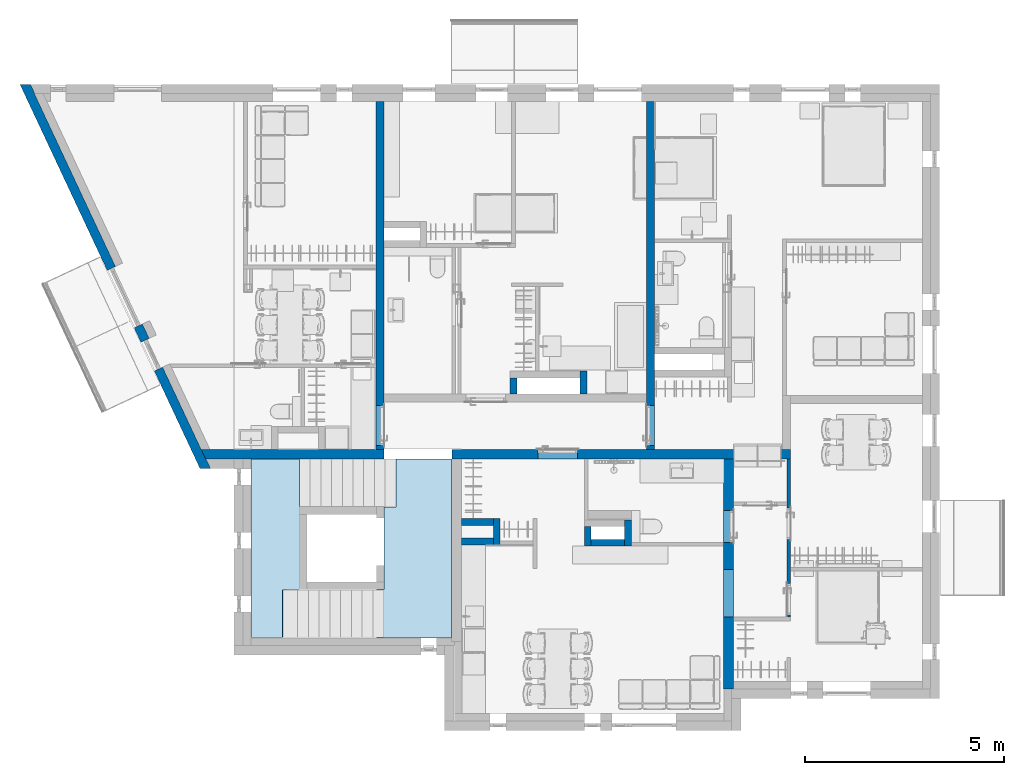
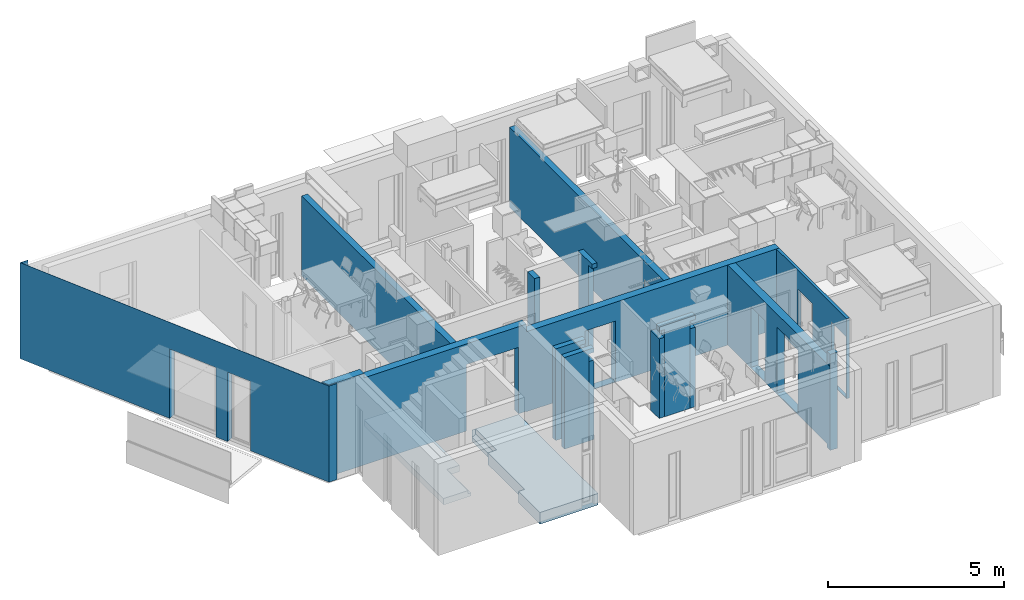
# One storey, part 10 of 68: 14 walls, 2 slabs, 1 element without a shape of its own.
"""IFC2X3 building model written with IfcOpenShell, lengths in millimetres."""

from ifc_helpers import new_model, entity, si_unit, converted_unit, direction, frame, origin, place, context, subcontext, project, spatial, faceted_brep, material, material_list, layer, layer_set, type_object, element, aggregate, save


model = new_model("IFC2X3")

# Units and contexts
model_context = context("Model", 3, precision=0.01, world=origin(), true_north=direction((6.123233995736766e-17, 1.0)))
plan_context = context("Plan", 3, precision=0.01, world=origin(), true_north=direction((6.123233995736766e-17, 1.0)))
body_context = subcontext(model_context, "Body", "Model", "MODEL_VIEW")
ifc_project = project(units=[si_unit("LENGTHUNIT", "METRE", prefix="MILLI"), converted_unit("PLANEANGLEUNIT", "DEGREE", entity("IfcPlaneAngleMeasure", 0.017453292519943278), si_unit("PLANEANGLEUNIT", "RADIAN"), dimensions=[0, 0, 0, 0, 0, 0, 0]), si_unit("AREAUNIT", "SQUARE_METRE")], contexts=[model_context, plan_context])

# Site, building, storey
site_placement = place(None, origin())
site = spatial("IfcSite", under=ifc_project, at=site_placement, Name="Default", CompositionType="ELEMENT")
building_placement = place(site_placement, origin())
building = spatial("IfcBuilding", under=site, at=building_placement, CompositionType="ELEMENT")
storey_placement = place(building_placement, frame((0.0, 0.0, 6295.0)))
storey = spatial("IfcBuildingStorey", under=building, at=storey_placement, Name="3K", CompositionType="ELEMENT", Elevation=6294.999999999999)

# Stair, slab
type_product = type_object("IfcTypeProduct", Name="Precast Stair:Default. Monteeritav raudbetoontrepp")
stair_placement = place(storey_placement, origin())
stair = element("IfcStair", 1, at=stair_placement, inside=storey, type_object=type_product, Name="Precast Stair:Stair", ObjectType="Precast Stair:Default. Monteeritav raudbetoontrepp", ShapeType="HALF_TURN_STAIR")
ifc_material_1 = material(Name="Temp. Betoon. Armeeritud. Kohtvalu")
slab_type_1 = type_object("IfcSlabType", Name="Monolithic Landing:Default Landing. Raudbetoon", PredefinedType="LANDING")
slab_1_placement = place(stair_placement, frame((0.0, 1905.0014695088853, 0.0)))
slab_1 = element("IfcSlab", 2, at=slab_1_placement, type_object=slab_type_1, material=ifc_material_1, Name="Precast Stair:Stair:508940 Landing 1", ObjectType="Monolithic Landing:Default Landing. Raudbetoon", PredefinedType="LANDING", context=body_context, shape_type="Brep", body=[
    faceted_brep([(902.4937255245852, 1204.9923864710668, 1565.000038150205), (1213.7438214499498, 1204.9923864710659, 1565.000038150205), (1213.7438214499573, 3292.4954377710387, 1565.000038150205), (1213.7438214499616, 4492.495437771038, 1565.000038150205), (0.0, 4492.495437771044, 1565.000038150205), (0.0, 0.0, 1565.000038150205), (792.4937255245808, 0.0, 1565.000038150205), (792.4937255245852, 1201.5875000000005, 1565.000038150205), (902.4937255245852, 1201.5875, 1565.000038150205), (902.4937255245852, 1204.9923864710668, 1345.000038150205), (902.4937255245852, 1201.5875, 1345.000038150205), (1213.7438214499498, 1204.9923864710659, 1345.000038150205), (1213.7438214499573, 3292.4954377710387, 1345.000038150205), (1213.7438214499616, 4492.495437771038, 1345.000038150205), (0.0, 4492.495437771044, 1345.000038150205), (0.0, 0.0, 1345.000038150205), (892.4937255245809, 0.0, 1345.000038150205), (892.4937255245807, 0.0, 1455.000038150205), (792.4937255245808, 0.0, 1455.000038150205), (892.4937255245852, 1201.5875, 1345.000038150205), (892.4937255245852, 1201.5875, 1455.000038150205), (792.4937255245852, 1201.5875000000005, 1455.000038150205)], [[[0, 1, 2, 3, 4, 5, 6, 7, 8]], [[9, 0, 8, 10]], [[1, 0, 9, 11]], [[2, 1, 11, 12]], [[4, 3, 13, 14]], [[5, 4, 14, 15]], [[5, 15, 16, 17, 18, 6]], [[11, 9, 10, 19, 16, 15, 14, 13, 12]], [[20, 21, 18, 17]], [[7, 21, 20, 19, 10, 8]], [[21, 7, 6, 18]], [[20, 17, 16, 19]], [[3, 2, 12, 13]]]),
])
aggregate(stair, [slab_1])

# Slab
ifc_material_2 = material(Name="_K. Betoon. Armeeritud. Kohtvalu")
ifc_material_3 = material(Name="_K. Soojustus. Mineraalvill")
ifc_material_4 = material(Name="_K. Soojustus. EPS")
ifc_material_5 = material(Name="_K. Betoon. Armeeritud. Monteeritav")
ifc_material_list = material_list([ifc_material_2, ifc_material_3, ifc_material_4, ifc_material_5])
slab_type_2 = type_object("IfcSlabType", Name="Floor:VL-03", PredefinedType="FLOOR")
slab_2_placement = place(storey_placement, origin())
element("IfcSlab", 3, at=slab_2_placement, inside=storey, type_object=slab_type_2, material=ifc_material_list, Name="Floor:VL-03", ObjectType="Floor:VL-03", PredefinedType="FLOOR", context=body_context, shape_type="Brep", body=[
    faceted_brep([(5049.995060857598, 6404.999959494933, -420.0), (5049.995060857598, 1900.0, -420.0), (3154.993534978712, 1900.0, -420.0), (3154.9935349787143, 3109.993882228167, -420.0), (3349.9935349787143, 3109.9938822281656, -420.0), (3349.9935349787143, 5189.998421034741, -420.0), (3529.993534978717, 5189.998421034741, -420.0), (3529.993534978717, 6404.999959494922, -420.0), (5049.995060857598, 1900.0, -20.0), (5049.995060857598, 6404.999959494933, -20.0), (3529.993534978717, 6404.999959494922, -20.0), (3529.993534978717, 6397.496907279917, -20.0), (3643.7438214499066, 6397.496907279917, -20.0), (3643.743821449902, 5197.496907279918, -20.0), (3529.993534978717, 5197.496907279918, -20.0), (3529.993534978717, 5189.998421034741, -20.0), (3349.9935349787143, 5189.998421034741, -20.0), (3349.9935349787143, 3109.9938822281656, -20.0), (3154.9935349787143, 3109.993882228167, -20.0), (3154.993534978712, 1900.0, -20.0), (3529.993534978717, 5197.496907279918, -273.2833054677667), (3529.993534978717, 6397.496907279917, -273.2833054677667), (3643.743821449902, 5197.496907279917, -199.0881597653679), (3643.7438214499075, 6397.496907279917, -199.08815976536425)], [[[0, 1, 2, 3, 4, 5, 6, 7]], [[8, 9, 10, 11, 12, 13, 14, 15, 16, 17, 18, 19]], [[1, 0, 9, 8]], [[2, 1, 8, 19]], [[5, 4, 17, 16]], [[0, 7, 10, 9]], [[3, 2, 19, 18]], [[4, 3, 18, 17]], [[6, 5, 16, 15]], [[7, 6, 15, 14, 20, 21, 11, 10]], [[22, 23, 21, 20]], [[23, 12, 11, 21]], [[13, 22, 20, 14]], [[23, 22, 13, 12]]]),
])

# Walls
ifc_material_6 = material(Name="_K. Müüritis. Väikeplokk. Betoon-õõnesplokk")
ifc_layer_1 = layer(ifc_material_6, 240.0)
ifc_layer_set_1 = layer_set([ifc_layer_1], Name="Basic Wall:Columbia 240mm")
wall_type_1 = type_object("IfcWallType", Name="Basic Wall:Columbia 240mm", PredefinedType="STANDARD", material=ifc_layer_set_1)
wall_1_placement = place(storey_placement, frame((13580.0, 6524.999959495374, -20.0), z_axis=(0.0, 0.0, 1.0), x_axis=(-1.0, 0.0, 0.0)))
element("IfcWall", 4, at=wall_1_placement, inside=storey, type_object=wall_type_1, Name="Basic Wall:Columbia 240mm", ObjectType="Basic Wall:Columbia 240mm", context=body_context, shape_type="Brep", body=[
    faceted_brep([(5360.0, -120.0, 20.0), (5360.0, -120.0, 2120.0), (6360.0, -120.0, 2120.0), (6360.0, -120.0, 20.0), (8275.00213623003, -120.0, 2770.00007630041), (3630.0, -120.0, 2770.00007630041), (3430.0, -120.0, 2770.00007630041), (200.0, -120.0, 2770.00007630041), (0.0, -120.0, 2770.00007630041), (0.0, -120.0, 20.0), (0.0, -120.0, 0.0), (8280.004939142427, -120.0, 0.0), (8280.004939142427, -120.0, 20.0), (8525.002802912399, -120.0, 20.0), (8525.002802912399, -120.0, 2320.000076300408), (10235.006465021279, -120.0, 2320.000076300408), (10235.006465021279, -120.0, 20.0), (11720.0, -120.0, 20.0), (11890.0, -120.0, 20.0), (12900.0, -120.0, 20.0), (13070.0, -120.0, 20.0), (14618.163728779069, -120.0, 20.0), (14839.04619184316, -120.0, 20.0), (14839.046191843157, -120.0, 2769.999801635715), (14839.046191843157, -120.0, 3190.0), (14010.0, -120.0, 3190.0), (13770.0, -120.0, 3190.0), (13580.0, -120.0, 3190.0), (13580.0, -120.0, 3035.00007630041), (8275.00213623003, -120.0, 3035.00007630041), (0.0, 120.0, 2770.00007630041), (92.0, 120.0, 2770.00007630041), (1435.0064650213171, 120.0, 2770.00007630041), (1685.0064650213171, 120.0, 2770.00007630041), (5098.0, 120.0, 2770.00007630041), (5190.0, 120.0, 2770.00007630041), (8275.00213623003, 120.0, 2770.00007630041), (8275.00213623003, 120.0, 3035.00007630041), (13580.0, 120.0, 3035.00007630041), (13580.0, 120.0, 3190.0), (13770.0, 120.0, 3190.0), (13780.0, 120.0, 3190.0), (14010.0, 120.0, 3190.0), (14726.54619191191, 120.0, 3190.0), (14726.54619191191, 120.0, 2769.999801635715), (14726.546191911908, 120.0, 20.0), (14715.502068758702, 120.0, 20.0), (14010.0, 120.0, 20.0), (13780.0, 120.0, 20.0), (13770.0, 120.0, 20.0), (13580.0, 120.0, 20.0), (10235.006465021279, 120.0, 20.0), (10235.006465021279, 120.0, 2320.000076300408), (8525.002802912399, 120.0, 2320.000076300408), (8525.002802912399, 120.0, 20.0), (8280.004939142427, 120.0, 20.0), (8280.004939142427, 120.0, 0.0), (5190.0, 120.0, 0.0), (5098.0, 120.0, 0.0), (1685.0064650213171, 120.0, 0.0), (1435.0064650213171, 120.0, 0.0), (0.0, 120.0, 0.0), (0.0, 120.0, 20.0), (5360.0, 120.0, 2120.0), (5360.0, 120.0, 20.0), (6360.0, 120.0, 20.0), (6360.0, 120.0, 2120.0)], [[[0, 1, 2, 3], [4, 5, 6, 7, 8, 9, 10, 11, 12, 13, 14, 15, 16, 17, 18, 19, 20, 21, 22, 23, 24, 25, 26, 27, 28, 29]], [[30, 31, 32, 33, 34, 35, 36, 37, 38, 39, 40, 41, 42, 43, 44, 45, 46, 47, 48, 49, 50, 51, 52, 53, 54, 55, 56, 57, 58, 59, 60, 61, 62], [63, 64, 65, 66]], [[43, 24, 23, 22, 45, 44]], [[24, 43, 42, 41, 40, 39, 27, 26, 25]], [[36, 4, 29, 37]], [[8, 7, 6, 5, 4, 36, 35, 34, 33, 32, 31, 30]], [[0, 64, 63, 1]], [[64, 0, 3, 65]], [[65, 3, 2, 66]], [[1, 63, 66, 2]], [[14, 53, 52, 15]], [[53, 14, 13, 54]], [[15, 52, 51, 16]], [[8, 30, 62, 61, 10, 9]], [[11, 10, 61, 60, 59, 58, 57, 56]], [[28, 38, 37, 29]], [[38, 28, 27, 39]], [[22, 21, 20, 19, 18, 17, 16, 51, 50, 49, 48, 47, 46, 45]], [[55, 12, 11, 56]], [[12, 55, 54, 13]]], outer=[[False, True], [True, False], [True], [True], [True], [True], [True], [True], [True], [True], [True], [True], [True], [True], [True], [True], [True], [True], [True], [True]]),
])
ifc_material_7 = material(Name="_K. Väisviimistlus. Krohv. Valge")
ifc_layer_2 = layer(ifc_material_7, 5.0)
ifc_layer_3 = layer(ifc_material_6, 190.00000000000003)
ifc_layer_4 = layer(ifc_material_7, 5.0)
ifc_layer_set_2 = layer_set([ifc_layer_2, ifc_layer_3, ifc_layer_4], Name="Basic Wall:SS-01. 190")
wall_type_2 = type_object("IfcWallType", Name="Basic Wall:SS-01. 190", PredefinedType="STANDARD", material=ifc_layer_set_2)
wall_2_placement = place(storey_placement, frame((3244.9935349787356, 6644.999959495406, -155.0), z_axis=(0.0, 0.0, 1.0), x_axis=(0.0, 1.0, 0.0)))
element("IfcWall", 5, at=wall_2_placement, inside=storey, type_object=wall_type_2, Name="Basic Wall:SS-01. 190", ObjectType="Basic Wall:SS-01. 190", context=body_context, shape_type="Brep", body=[
    faceted_brep([(8755.00004050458, -100.0, 2905.000076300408), (5735.000040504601, -100.0, 2905.000076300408), (5565.000040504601, -100.0, 2905.000076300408), (5255.000040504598, -100.0, 2905.000076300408), (5085.000040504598, -100.0, 2905.000076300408), (1395.0000405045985, -100.0, 2905.000076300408), (1195.0000405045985, -100.0, 2905.000076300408), (0.0, -100.0, 2905.000076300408), (0.0, -100.0, 2455.0000763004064), (0.0, -100.0, 155.0), (0.0, -100.0, 0.0), (5.0, -100.0, 0.0), (5.0, -100.0, 135.0), (1195.0000405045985, -100.0, 135.0), (1395.0000405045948, -100.0, 135.0), (2595.0000405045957, -100.0, 135.0), (5085.000040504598, -100.0, 135.0), (5255.000040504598, -100.0, 135.0), (5565.000040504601, -100.0, 135.0), (5735.000040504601, -100.0, 135.0), (8755.00004050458, -100.0, 135.0), (100.00002025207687, -100.0, 155.0), (100.00002025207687, -100.0, 2255.0), (1100.0000202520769, -100.0, 2255.0), (1100.000020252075, -100.0, 155.0), (100.00002025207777, 100.0, 2255.0), (100.00002025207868, 100.0, 155.0), (1100.0000202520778, 100.0, 155.0), (1100.0000202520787, 100.0, 2255.0), (0.0, 100.0, 2905.000076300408), (2061.0000405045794, 100.0, 2905.000076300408), (2153.0000405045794, 100.0, 2905.000076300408), (4542.000040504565, 100.0, 2905.000076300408), (4634.000040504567, 100.0, 2905.000076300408), (8755.00004050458, 100.0, 2905.000076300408), (8755.000040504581, 100.0, 135.0), (4634.000040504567, 100.0, 135.0), (4542.000040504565, 100.0, 135.0), (2153.0000405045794, 100.0, 135.0), (2061.0000405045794, 100.0, 135.0), (5.0, 100.0, 135.0), (5.0, 100.0, 0.0), (0.0, 100.0, 0.0)], [[[0, 1, 2, 3, 4, 5, 6, 7, 8, 9, 10, 11, 12, 13, 14, 15, 16, 17, 18, 19, 20], [21, 22, 23, 24]], [[25, 26, 27, 28], [29, 30, 31, 32, 33, 34, 35, 36, 37, 38, 39, 40, 41, 42]], [[10, 42, 41, 11]], [[7, 6, 5, 4, 3, 2, 1, 0, 34, 33, 32, 31, 30, 29]], [[10, 9, 8, 7, 29, 42]], [[21, 26, 25, 22]], [[26, 21, 24, 27]], [[27, 24, 23, 28]], [[22, 25, 28, 23]], [[34, 0, 20, 35]], [[12, 40, 39, 38, 37, 36, 35, 20, 19, 18, 17, 16, 15, 14, 13]], [[40, 12, 11, 41]]], outer=[[True, False], [False, True], [True], [True], [True], [True], [True], [True], [True], [True], [True], [True]]),
])
wall_3_placement = place(storey_placement, frame((10050.0, 6644.999959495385, -20.0), z_axis=(0.0, 0.0, 1.0), x_axis=(0.0, 1.0, 0.0)))
element("IfcWall", 6, at=wall_3_placement, inside=storey, type_object=wall_type_2, Name="Basic Wall:SS-01. 190", ObjectType="Basic Wall:SS-01. 190", context=body_context, shape_type="Brep", body=[
    faceted_brep([(1100.0000202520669, -100.0, 2120.0), (1100.0000202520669, -100.0, 20.0), (100.00002025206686, -100.0, 20.0), (100.00002025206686, -100.0, 2120.0), (8755.00004050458, -100.0, 2769.9998779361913), (5295.000040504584, -100.0, 2769.9998779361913), (5203.000040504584, -100.0, 2769.9998779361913), (1995.0000405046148, -100.0, 2769.9998779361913), (1825.000040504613, -100.0, 2769.9998779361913), (0.0, -100.0, 2769.9998779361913), (0.0, -100.0, 0.0), (1995.0000405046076, -100.0, 0.0), (2395.0000405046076, -100.0, 0.0), (2565.0000405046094, -100.0, 0.0), (3645.0000405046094, -100.0, 0.0), (5203.000040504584, -100.0, 0.0), (5295.000040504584, -100.0, 0.0), (8755.00004050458, -100.0, 0.0), (0.0, 100.0, 2769.9998779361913), (1195.0000405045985, 100.0, 2769.9998779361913), (1395.0000405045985, 100.0, 2769.9998779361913), (8755.00004050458, 100.0, 2769.9998779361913), (8755.00004050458, 100.0, 0.0), (1395.0000405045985, 100.0, 0.0), (1195.0000405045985, 100.0, 0.0), (0.0, 100.0, 0.0), (1100.0000202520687, 100.0, 20.0), (1100.0000202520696, 100.0, 2120.0), (100.00002025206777, 100.0, 2120.0), (100.00002025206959, 100.0, 20.0)], [[[0, 1, 2, 3], [4, 5, 6, 7, 8, 9, 10, 11, 12, 13, 14, 15, 16, 17]], [[18, 19, 20, 21, 22, 23, 24, 25], [26, 27, 28, 29]], [[9, 8, 7, 6, 5, 4, 21, 20, 19, 18]], [[9, 18, 25, 10]], [[26, 1, 0, 27]], [[1, 26, 29, 2]], [[2, 29, 28, 3]], [[27, 0, 3, 28]], [[21, 4, 17, 22]], [[17, 16, 15, 14, 13, 12, 11, 10, 25, 24, 23, 22]]], outer=[[False, True], [True, False], [True], [True], [True], [True], [True], [True], [True], [True]]),
])
ifc_layer_5 = layer(ifc_material_7, 5.0)
ifc_layer_6 = layer(ifc_material_6, 240.0)
ifc_layer_7 = layer(ifc_material_7, 5.0)
ifc_layer_set_3 = layer_set([ifc_layer_5, ifc_layer_6, ifc_layer_7], Name="Basic Wall:SS-01.240")
wall_type_3 = type_object("IfcWallType", Name="Basic Wall:SS-01.240", PredefinedType="STANDARD", material=ifc_layer_set_3)
wall_4_placement = place(storey_placement, frame((12019.993534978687, 610.0, -155.0), z_axis=(0.0, 0.0, 1.0), x_axis=(0.0, 1.0, 0.0)))
element("IfcWall", 7, at=wall_4_placement, inside=storey, type_object=wall_type_3, Name="Basic Wall:SS-01.240", ObjectType="Basic Wall:SS-01.240", context=body_context, shape_type="Brep", body=[
    faceted_brep([(190.0, -125.0, 3325.0), (0.0, -125.0, 3325.0), (0.0, -125.0, 155.0), (0.0, -125.0, 0.0), (190.0, -125.0, 0.0), (190.0, -125.0, 135.0), (1717.9999594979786, -125.0, 135.0), (1809.9999594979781, -125.0, 135.0), (4617.999959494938, -125.0, 135.0), (4709.999959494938, -125.0, 135.0), (5794.999959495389, -125.0, 135.0), (5794.99995949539, -125.0, 2905.000076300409), (4709.999959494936, -125.0, 2905.000076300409), (4617.999959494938, -125.0, 2905.000076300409), (1809.9999594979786, -125.0, 2905.000076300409), (1717.9999594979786, -125.0, 2905.000076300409), (190.0, -125.0, 2905.000076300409), (1809.9999594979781, -125.0, 2455.0000763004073), (3009.999959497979, -125.0, 2455.0000763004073), (3009.999959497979, -125.0, 155.0), (1809.9999594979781, -125.0, 155.0), (3689.9976318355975, -125.0, 155.0), (3689.9976318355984, -125.0, 2255.0), (4489.997631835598, -125.0, 2255.0), (4489.997631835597, -125.0, 155.0), (190.0, 125.0, 2905.000076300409), (3600.0, 125.0, 2905.000076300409), (3692.0, 125.0, 2905.000076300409), (5794.999959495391, 125.0, 2905.000076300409), (5794.999959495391, 125.0, 135.0), (3692.0, 125.0, 135.0), (3600.0, 125.0, 135.0), (0.0, 125.0, 135.0), (0.0, 125.0, 2905.000076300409), (3009.9999594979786, 125.0, 2455.0000763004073), (1809.9999594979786, 125.0, 2455.0000763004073), (1809.9999594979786, 125.0, 155.0), (3009.9999594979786, 125.0, 155.0), (3689.997631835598, 125.0, 2255.0), (3689.997631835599, 125.0, 155.0), (4489.997631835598, 125.0, 155.0), (4489.997631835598, 125.0, 2255.0), (0.0, 119.99353497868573, 0.0), (190.0, 119.99353497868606, 0.0), (190.0, 119.99353497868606, 2905.000076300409), (190.0, 119.99353497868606, 3325.0), (0.0, 119.99353497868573, 2905.000076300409), (0.0, 119.99353497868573, 3325.0), (0.0, -70.00646502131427, 3325.0), (0.0, 119.99353497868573, 135.0), (190.0, 119.99353497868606, 135.0)], [[[0, 1, 2, 3, 4, 5, 6, 7, 8, 9, 10, 11, 12, 13, 14, 15, 16], [17, 18, 19, 20], [21, 22, 23, 24]], [[25, 26, 27, 28, 29, 30, 31, 32, 33], [34, 35, 36, 37], [38, 39, 40, 41]], [[4, 3, 42, 43]], [[28, 11, 10, 29]], [[0, 16, 44, 45]], [[16, 15, 14, 13, 12, 11, 28, 27, 26, 25, 33, 46, 44]], [[17, 35, 34, 18]], [[19, 37, 36, 20]], [[35, 17, 20, 36]], [[18, 34, 37, 19]], [[21, 39, 38, 22]], [[39, 21, 24, 40]], [[40, 24, 23, 41]], [[22, 38, 41, 23]], [[1, 0, 45, 47, 48]], [[47, 45, 44, 46]], [[3, 2, 1, 48, 47, 46, 33, 32, 49, 42]], [[5, 50, 49, 32, 31, 30, 29, 10, 9, 8, 7, 6]], [[50, 5, 4, 43]], [[49, 50, 43, 42]]]),
])
ifc_layer_8 = layer(ifc_material_7, 10.0)
ifc_material_8 = material(Name="_K. Soojustus. EPS Silver")
ifc_layer_9 = layer(ifc_material_8, 230.0)
ifc_layer_set_4 = layer_set([ifc_layer_8, ifc_layer_9], Name="Basic Wall:VS-01")
wall_type_4 = type_object("IfcWallType", Name="Basic Wall:VS-01", PredefinedType="STANDARD", material=ifc_layer_set_4)
wall_5_placement = place(storey_placement, frame((-1131.657141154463, 6114.067894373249, 0.0), z_axis=(0.0, 0.0, 1.0), x_axis=(-0.4244338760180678, 0.905458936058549, 0.0)))
element("IfcWall", 8, at=wall_5_placement, inside=storey, type_object=wall_type_4, Name="Basic Wall:VS-01", ObjectType="Basic Wall:VS-01", context=body_context, shape_type="Brep", body=[
    faceted_brep([(0.0, -120.0, 3325.00007630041), (0.0, -120.0, 0.0), (265.05895567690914, -120.0, 0.0), (265.05895567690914, -120.0, 2749.999801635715), (11.044123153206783, -120.0, 2749.999801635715), (11.044123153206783, -120.0, 3325.00007630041), (10786.645072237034, 120.0, 3325.00007630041), (10786.645072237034, 120.0, 0.0), (5618.11127394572, 120.0, 0.0), (5618.111273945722, 120.0, 2400.0), (4018.1112739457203, 120.0, 2400.0), (4018.1112739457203, 120.0, 0.0), (3618.111273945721, 120.0, 0.0), (3618.1112739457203, 120.0, 2400.0), (2818.111273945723, 120.0, 2400.0), (2818.1112739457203, 120.0, 0.0), (112.4999999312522, 120.0, 0.0), (112.4999999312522, 120.0, 3325.00007630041), (123.54412308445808, 120.0, 3325.00007630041), (2037.9547372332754, 120.0, 3325.00007630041), (2063.480840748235, 120.0, 3325.00007630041), (6372.6607124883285, 120.0, 3325.00007630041), (6398.186816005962, 120.0, 3325.00007630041), (10775.600949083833, 120.0, 3325.00007630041), (2818.1112739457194, 40.0, 0.0), (2818.1112739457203, 30.0, 0.0), (2818.111273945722, -110.0, 0.0), (534.805411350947, -110.0, 0.0), (269.7464556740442, -110.0, 0.0), (10674.145072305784, -120.0, 0.0), (10781.957572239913, 110.0, 3325.00007630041), (10679.038440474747, -109.56081456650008, 3325.00007630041), (10679.038440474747, -109.56081456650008, 3170.00007630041), (10674.145072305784, -120.0, 3170.00007630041), (107.8124999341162, 110.0, 3325.00007630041), (10424.81773977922, -110.0, 0.0), (10424.817739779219, -110.0, 2749.999801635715), (534.805411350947, -110.0, 2749.999801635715), (269.74645567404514, -110.0, 2749.999801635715), (2818.1112739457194, -110.0, 2400.0), (3618.1112739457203, -110.0, 2400.0), (3618.111273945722, -110.0, 0.0), (4018.1112739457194, -110.0, 0.0), (4018.1112739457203, -110.0, 2400.0), (5618.11127394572, -110.0, 2400.0), (5618.111273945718, -110.0, 0.0), (10420.130239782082, -120.0, 0.0), (10420.130239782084, -120.0, 2749.999801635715), (5618.1112739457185, 40.0, 0.0), (5618.111273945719, 30.0, 0.0), (4018.1112739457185, 30.0, 0.0), (4018.1112739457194, 40.0, 0.0), (3618.1112739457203, 40.0, 0.0), (3618.111273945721, 30.0, 0.0), (10770.91344908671, 110.0, 3325.00007630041), (10770.91344908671, 110.0, 2749.999801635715), (10663.10094915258, -120.0, 2749.999801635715), (10663.10094915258, -120.0, 3170.00007630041), (10669.98385111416, -105.31647580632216, 3170.00007630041), (10669.98385111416, -105.31647580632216, 3325.00007630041), (118.85662308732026, 110.0, 2749.999801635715), (118.85662308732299, 110.0, 3325.00007630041)], [[[0, 1, 2, 3, 4, 5]], [[6, 7, 8, 9, 10, 11, 12, 13, 14, 15, 16, 17, 18, 19, 20, 21, 22, 23]], [[1, 16, 15, 24, 25, 26, 27, 28, 2]], [[29, 7, 6, 30, 31, 32, 33]], [[1, 0, 34, 17, 16]], [[35, 36, 37, 38, 28, 27, 26, 39, 40, 41, 42, 43, 44, 45]], [[36, 35, 46, 47]], [[9, 8, 48, 49, 45, 44]], [[10, 9, 44, 43]], [[11, 10, 43, 42, 50, 51]], [[13, 12, 52, 53, 41, 40]], [[14, 13, 40, 39]], [[15, 14, 39, 26, 25, 24]], [[3, 2, 28, 38]], [[54, 55, 56, 57, 58, 59]], [[5, 4, 60, 61]], [[23, 22, 21, 20, 19, 18, 61, 54]], [[54, 61, 60, 55]], [[0, 5, 61, 34]], [[18, 17, 34, 61]], [[30, 54, 59, 31]], [[6, 23, 54, 30]], [[56, 55, 60, 4, 3, 38, 37, 36, 47]], [[32, 58, 57, 33]], [[58, 32, 31, 59]], [[11, 51, 50, 42, 41, 53, 52, 12]], [[7, 29, 46, 35, 45, 49, 48, 8]], [[47, 46, 29, 33, 57, 56]]]),
])
ifc_material_9 = material(Name="_K. Ehitusplaat. Kipsplaat. Erikõva")
ifc_layer_10 = layer(ifc_material_9, 13.000000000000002)
ifc_layer_11 = layer(ifc_material_3, 66.0)
ifc_layer_12 = layer(ifc_material_9, 13.000000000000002)
ifc_layer_set_5 = layer_set([ifc_layer_10, ifc_layer_11, ifc_layer_12], Name="Basic Wall:SS-401")
wall_type_5 = type_object("IfcWallType", Name="Basic Wall:SS-401", PredefinedType="STANDARD", material=ifc_layer_set_5)
wall_6_placement = place(storey_placement, frame((13534.0, 2419.9999594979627, -20.0), z_axis=(0.0, 0.0, 1.0), x_axis=(0.0, 1.0, 0.0)))
element("IfcWall", 9, at=wall_6_placement, inside=storey, type_object=wall_type_5, Name="Basic Wall:SS-401", ObjectType="Basic Wall:SS-401", context=body_context, shape_type="Brep", body=[
    faceted_brep([(0.0, -46.0, 0.0), (1160.0000405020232, -46.0, 0.0), (1252.0000405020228, -46.0, 0.0), (3979.999999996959, -46.0, 0.0), (3979.999999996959, -46.0, 20.0), (3984.999999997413, -46.0, 20.0), (3984.999999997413, -46.0, 2770.0), (1252.0000405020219, -46.0, 2770.0), (1160.0000405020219, -46.0, 2770.0), (0.0, -46.0, 2770.0), (850.0, -46.0, 2120.0), (850.0, -46.0, 20.0), (50.0, -46.0, 20.0), (50.0, -46.0, 2120.0), (1952.000040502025, -46.0, 20.0), (1952.0000405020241, -46.0, 2120.0), (2752.000040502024, -46.0, 2120.0), (2752.000040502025, -46.0, 20.0), (3979.9999999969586, 46.0, 0.0), (2899.9999999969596, 46.0, 0.0), (2807.9999999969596, 46.0, 0.0), (0.0, 46.0, 0.0), (0.0, 46.0, 2770.0), (2807.9999999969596, 46.0, 2770.0), (2899.9999999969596, 46.0, 2770.0), (3984.9999999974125, 46.0, 2770.0), (3984.9999999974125, 46.0, 20.0), (3979.9999999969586, 46.0, 20.0), (850.0, 46.0, 20.0), (850.0, 46.0, 2120.0), (50.0, 46.0, 2120.0), (50.0, 46.0, 20.0), (1952.0000405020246, 46.0, 2120.0), (1952.0000405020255, 46.0, 20.0), (2752.0000405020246, 46.0, 20.0), (2752.0000405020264, 46.0, 2120.0)], [[[0, 1, 2, 3, 4, 5, 6, 7, 8, 9], [10, 11, 12, 13], [14, 15, 16, 17]], [[18, 19, 20, 21, 22, 23, 24, 25, 26, 27], [28, 29, 30, 31], [32, 33, 34, 35]], [[3, 2, 1, 0, 21, 20, 19, 18]], [[9, 8, 7, 6, 25, 24, 23, 22]], [[0, 9, 22, 21]], [[10, 29, 28, 11]], [[11, 28, 31, 12]], [[12, 31, 30, 13]], [[29, 10, 13, 30]], [[32, 15, 14, 33]], [[33, 14, 17, 34]], [[34, 17, 16, 35]], [[15, 32, 35, 16]], [[5, 4, 27, 26]], [[4, 3, 18, 27]], [[6, 5, 26, 25]]]),
])
ifc_layer_13 = layer(ifc_material_7, 10.0)
ifc_material_10 = material(Name="_K. Müüritis. Väikeplokk. Kergkruusplokk")
ifc_layer_14 = layer(ifc_material_10, 150.0)
ifc_layer_15 = layer(ifc_material_7, 10.0)
ifc_layer_set_6 = layer_set([ifc_layer_13, ifc_layer_14, ifc_layer_15], Name="Basic Wall:SS-03. Šahti sein")
wall_type_6 = type_object("IfcWallType", Name="Basic Wall:SS-03. Šahti sein", PredefinedType="STANDARD", material=ifc_layer_set_6)
wall_7_placement = place(storey_placement, frame((8365.0, 8610.0, 0.0), z_axis=(0.0, 0.0, 1.0), x_axis=(0.0, -1.0, 0.0)))
element("IfcWall", 10, at=wall_7_placement, inside=storey, type_object=wall_type_6, Name="Basic Wall:SS-03. Šahti sein", ObjectType="Basic Wall:SS-03. Šahti sein", context=body_context, shape_type="Brep", body=[
    faceted_brep([(0.0, -85.0, 0.0), (170.0, -85.0, 0.0), (570.0, -85.0, 0.0), (570.0, -85.0, 3015.0000763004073), (775.0000405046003, -85.0, 3015.0000763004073), (775.0000405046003, -85.0, 3150.0000763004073), (775.0000405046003, -85.0, 3170.0), (170.0, -85.0, 3170.0), (0.0, -85.0, 3170.0), (0.0, 85.0, 0.0), (0.0, 85.0, 3170.0), (775.0000405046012, 85.0, 3170.0), (775.0000405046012, 85.0, 3015.0000763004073), (570.0, 85.0, 3015.0000763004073), (570.0, 85.0, 0.0)], [[[0, 1, 2, 3, 4, 5, 6, 7, 8]], [[9, 10, 11, 12, 13, 14]], [[2, 1, 0, 9, 14]], [[8, 7, 6, 11, 10]], [[0, 8, 10, 9]], [[3, 2, 14, 13]], [[6, 5, 4, 12, 11]], [[12, 4, 3, 13]]]),
])
wall_8_placement = place(storey_placement, frame((6605.0, 8440.0, 0.0), z_axis=(0.0, 0.0, 1.0), x_axis=(0.0, -1.0, 0.0)))
element("IfcWall", 11, at=wall_8_placement, inside=storey, type_object=wall_type_6, Name="Basic Wall:SS-03. Šahti sein", ObjectType="Basic Wall:SS-03. Šahti sein", context=body_context, shape_type="Brep", body=[
    faceted_brep([(0.0, -85.0, 0.0), (400.0, -85.0, 0.0), (400.0, -85.0, 3015.0000763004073), (405.0000405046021, -85.0, 3015.0000763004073), (405.0000405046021, -85.0, 3170.0), (0.0, -85.0, 3170.0), (0.0, 85.0, 0.0), (0.0, 85.0, 3170.0), (405.0000405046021, 85.0, 3170.0), (405.0000405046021, 85.0, 3015.0000763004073), (400.0, 85.0, 3015.0000763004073), (400.0, 85.0, 0.0)], [[[0, 1, 2, 3, 4, 5]], [[6, 7, 8, 9, 10, 11]], [[1, 0, 6, 11]], [[5, 4, 8, 7]], [[0, 5, 7, 6]], [[9, 3, 2, 10]], [[2, 1, 11, 10]], [[4, 3, 9, 8]]]),
])
wall_9_placement = place(storey_placement, frame((9485.0, 4870.0, -20.0), z_axis=(0.0, 0.0, 1.0), x_axis=(0.0, -1.0, 0.0)))
element("IfcWall", 12, at=wall_9_placement, inside=storey, type_object=wall_type_6, Name="Basic Wall:SS-03. Šahti sein", ObjectType="Basic Wall:SS-03. Šahti sein", context=body_context, shape_type="Brep", body=[
    faceted_brep([(660.0, -85.0, 2770.000076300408), (170.0, -85.0, 2770.000076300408), (0.0, -85.0, 2770.000076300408), (0.0, -85.0, 20.0), (170.0, -85.0, 20.0), (170.0, -85.0, 0.0), (490.0, -85.0, 0.0), (490.0, -85.0, 20.0), (660.0, -85.0, 20.0), (0.0, 85.0, 2770.000076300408), (568.0, 85.0, 2770.000076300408), (660.0, 85.0, 2770.000076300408), (660.0, 85.0, 20.0), (490.0, 85.0, 20.0), (490.0, 85.0, 0.0), (170.0, 85.0, 0.0), (170.0, 85.0, 20.0), (0.0, 85.0, 20.0)], [[[0, 1, 2, 3, 4, 5, 6, 7, 8]], [[9, 10, 11, 12, 13, 14, 15, 16, 17]], [[2, 1, 0, 11, 10, 9]], [[17, 16, 4, 3]], [[4, 16, 15, 5]], [[3, 2, 9, 17]], [[8, 7, 13, 12]], [[13, 7, 6, 14]], [[8, 12, 11, 0]], [[6, 5, 15, 14]]]),
])
wall_10_placement = place(storey_placement, frame((8475.0, 4700.0, -20.0), z_axis=(0.0, 0.0, 1.0), x_axis=(0.0, -1.0, 0.0)))
element("IfcWall", 13, at=wall_10_placement, inside=storey, type_object=wall_type_6, Name="Basic Wall:SS-03. Šahti sein", ObjectType="Basic Wall:SS-03. Šahti sein", context=body_context, shape_type="Brep", body=[
    faceted_brep([(490.0, -85.0, 2770.000076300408), (0.0, -85.0, 2770.000076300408), (0.0, -85.0, 20.0), (0.0, -85.0, 0.0), (320.0, -85.0, 0.0), (320.0, -85.0, 20.0), (490.0, -85.0, 20.0), (0.0, 85.0, 2770.000076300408), (490.0, 85.0, 2770.000076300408), (490.0, 85.0, 20.0), (320.0, 85.0, 20.0), (320.0, 85.0, 0.0), (0.0, 85.0, 0.0)], [[[0, 1, 2, 3, 4, 5, 6]], [[7, 8, 9, 10, 11, 12]], [[1, 0, 8, 7]], [[6, 5, 10, 9]], [[10, 5, 4, 11]], [[0, 6, 9, 8]], [[1, 7, 12, 3, 2]], [[4, 3, 12, 11]]]),
])
wall_11_placement = place(storey_placement, frame((8390.0, 4295.0, 0.0)))
element("IfcWall", 14, at=wall_11_placement, inside=storey, type_object=wall_type_6, Name="Basic Wall:SS-03. Šahti sein", ObjectType="Basic Wall:SS-03. Šahti sein", context=body_context, shape_type="Brep", body=[
    faceted_brep([(170.0, -85.0, 0.0), (1010.0, -85.0, 0.0), (1010.0, -85.0, 2750.0000763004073), (1010.0, -85.0, 3015.0000763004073), (1180.0, -85.0, 3015.0000763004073), (1180.0, -85.0, 3170.0), (1010.0, -85.0, 3170.0), (170.0, -85.0, 3170.0), (0.0, -85.0, 3170.0), (0.0, -85.0, 3015.0000763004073), (170.0, -85.0, 3015.0000763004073), (170.0, -85.0, 2750.0000763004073), (170.0, 85.0, 0.0), (170.0, 85.0, 3015.0000763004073), (0.0, 85.0, 3015.0000763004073), (0.0, 85.0, 3150.0000763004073), (0.0, 85.0, 3170.0), (170.0, 85.0, 3170.0), (1010.0, 85.0, 3170.0), (1180.0, 85.0, 3170.0), (1180.0, 85.0, 3150.0000763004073), (1180.0, 85.0, 3015.0000763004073), (1010.0, 85.0, 3015.0000763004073), (1010.0, 85.0, 0.0)], [[[0, 1, 2, 3, 4, 5, 6, 7, 8, 9, 10, 11]], [[12, 13, 14, 15, 16, 17, 18, 19, 20, 21, 22, 23]], [[1, 0, 12, 23]], [[8, 7, 6, 5, 19, 18, 17, 16]], [[21, 4, 3, 22]], [[3, 2, 1, 23, 22]], [[9, 14, 13, 10]], [[0, 11, 10, 13, 12]], [[8, 16, 15, 14, 9]], [[4, 21, 20, 19, 5]]]),
])
wall_12_placement = place(storey_placement, frame((5299.995060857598, 4815.0, 0.0)))
element("IfcWall", 15, at=wall_12_placement, inside=storey, type_object=wall_type_6, Name="Basic Wall:SS-03. Šahti sein", ObjectType="Basic Wall:SS-03. Šahti sein", context=body_context, shape_type="Brep", body=[
    faceted_brep([(0.0, -85.0, 0.0), (800.0021362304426, -85.0, 0.0), (800.0021362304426, -85.0, 3015.0000763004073), (970.0021362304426, -85.0, 3015.0000763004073), (970.0021362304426, -85.0, 3150.0000763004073), (970.0021362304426, -85.0, 3170.0), (800.0021362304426, -85.0, 3170.0), (0.0, -85.0, 3170.0), (0.0, 85.0, 0.0), (0.0, 85.0, 3170.0), (800.002136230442, 85.0, 3170.0), (970.002136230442, 85.0, 3170.0), (970.002136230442, 85.0, 3015.0000763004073), (800.002136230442, 85.0, 3015.0000763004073), (800.002136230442, 85.0, 2750.0000763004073), (800.002136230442, 85.0, 0.0)], [[[0, 1, 2, 3, 4, 5, 6, 7]], [[8, 9, 10, 11, 12, 13, 14, 15]], [[1, 0, 8, 15]], [[7, 6, 5, 11, 10, 9]], [[0, 7, 9, 8]], [[12, 3, 2, 13]], [[2, 1, 15, 14, 13]], [[5, 4, 3, 12, 11]]]),
])
wall_13_placement = place(storey_placement, frame((6184.997197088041, 4900.0, -20.0), z_axis=(0.0, 0.0, 1.0), x_axis=(0.0, -1.0, 0.0)))
element("IfcWall", 16, at=wall_13_placement, inside=storey, type_object=wall_type_6, Name="Basic Wall:SS-03. Šahti sein", ObjectType="Basic Wall:SS-03. Šahti sein", context=body_context, shape_type="Brep", body=[
    faceted_brep([(660.0, -85.0, 2770.000076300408), (0.0, -85.0, 2770.000076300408), (0.0, -85.0, 20.0), (170.0, -85.0, 20.0), (170.0, -85.0, 0.0), (490.0, -85.0, 0.0), (490.0, -85.0, 20.0), (660.0, -85.0, 20.0), (0.0, 85.0, 2770.000076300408), (568.0, 85.0, 2770.000076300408), (660.0, 85.0, 2770.000076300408), (660.0, 85.0, 20.0), (490.0, 85.0, 20.0), (490.0, 85.0, 0.0), (170.0, 85.0, 0.0), (170.0, 85.0, 20.0), (0.0, 85.0, 20.0)], [[[0, 1, 2, 3, 4, 5, 6, 7]], [[8, 9, 10, 11, 12, 13, 14, 15, 16]], [[1, 0, 10, 9, 8]], [[7, 6, 12, 11]], [[12, 6, 5, 13]], [[16, 15, 3, 2]], [[3, 15, 14, 4]], [[2, 1, 8, 16]], [[7, 11, 10, 0]], [[5, 4, 14, 13]]]),
])
wall_14_placement = place(storey_placement, frame((5299.995060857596, 4325.0, 0.0)))
element("IfcWall", 17, at=wall_14_placement, inside=storey, type_object=wall_type_6, Name="Basic Wall:SS-03. Šahti sein", ObjectType="Basic Wall:SS-03. Šahti sein", context=body_context, shape_type="Brep", body=[
    faceted_brep([(0.0, -85.0, 0.0), (800.0021362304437, -85.0, 0.0), (800.0021362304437, -85.0, 2750.0000763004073), (800.0021362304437, -85.0, 3015.0000763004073), (970.0021362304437, -85.0, 3015.0000763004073), (970.0021362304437, -85.0, 3170.0), (800.0021362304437, -85.0, 3170.0), (0.0, -85.0, 3170.0), (0.0, 85.0, 0.0), (0.0, 85.0, 3170.0), (800.0021362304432, 85.0, 3170.0), (970.0021362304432, 85.0, 3170.0), (970.0021362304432, 85.0, 3015.0000763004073), (800.0021362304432, 85.0, 3015.0000763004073), (800.0021362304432, 85.0, 0.0)], [[[0, 1, 2, 3, 4, 5, 6, 7]], [[8, 9, 10, 11, 12, 13, 14]], [[1, 0, 8, 14]], [[7, 6, 5, 11, 10, 9]], [[0, 7, 9, 8]], [[12, 4, 3, 13]], [[3, 2, 1, 14, 13]], [[5, 4, 12, 11]]]),
])

save(model, "model.ifc")
